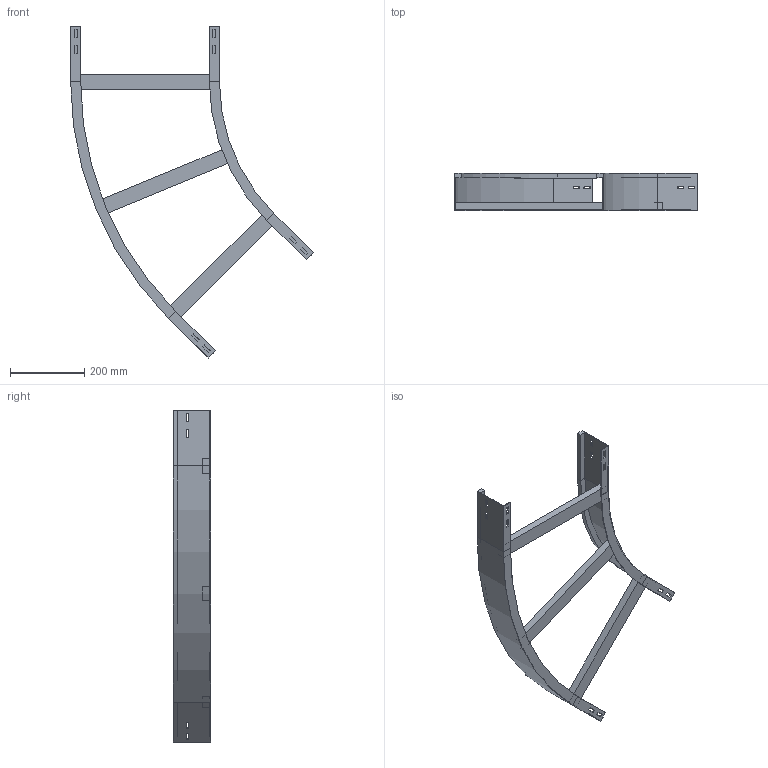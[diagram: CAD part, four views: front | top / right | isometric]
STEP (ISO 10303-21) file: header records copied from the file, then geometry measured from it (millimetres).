
FILE_DESCRIPTION (( 'STEP AP214' ), '1' );
FILE_NAME ('11B5D400.step', '2025-02-21T15:11:49', ( '' ), ( '' ), 'SwSTEP 2.0', 'SolidWorks 2023', '' );
FILE_SCHEMA (( 'AUTOMOTIVE_DESIGN' ));
Length unit declared in the file: millimetre
Products named in the file (4): A2_LONGH.ESTERNO 45°_H100_R500+400; 11B5D400; A2_LONGH.INTERNO 45°_H100_R500; TRAVERSINO_400
Assembly tree (5 placements, depth 2):
  11B5D400
    A2_LONGH.INTERNO 45°_H100_R500
    A2_LONGH.ESTERNO 45°_H100_R500+400
    TRAVERSINO_400  x3
Bounding box: 652.51 x 100 x 892.46 mm (x, y, z)
Volume: 1708556.4 mm3; surface area: 633377.4 mm2
Topology: 5 solids, 5 shells, 134 faces, 340 edges, 216 vertices
Faces by surface type: plane 126, cylinder 8
Entity records: 3821 total; most frequent: CARTESIAN_POINT 646, ORIENTED_EDGE 632, DIRECTION 592, EDGE_CURVE 316, LINE 300, VECTOR 300, VERTEX_POINT 200, EDGE_LOOP 154
